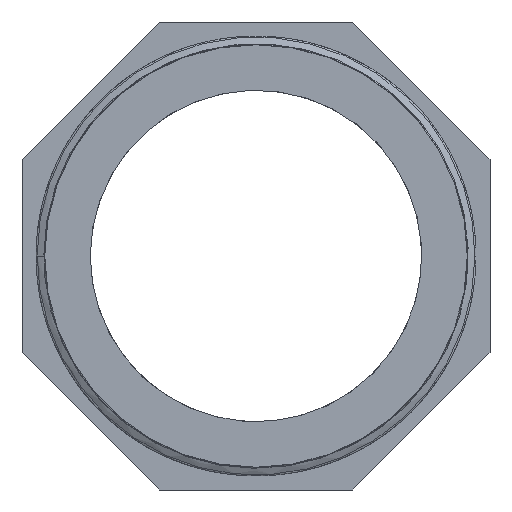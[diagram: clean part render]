
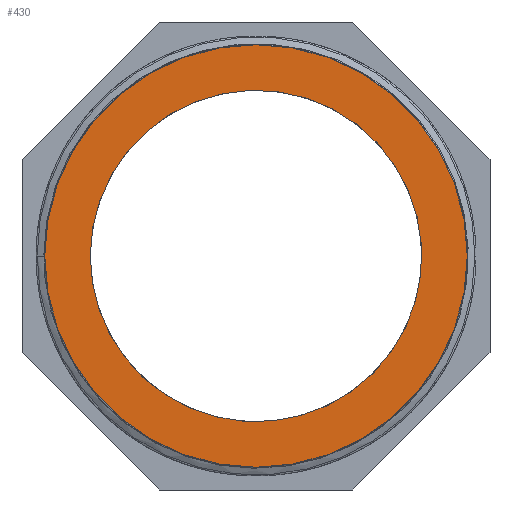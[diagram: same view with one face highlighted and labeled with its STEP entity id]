
A CAD part, front view. The second image highlights one B-rep face of the part: STEP entity #430.
In plain terms, the highlighted planar face has unit normal (0, -1, 0).
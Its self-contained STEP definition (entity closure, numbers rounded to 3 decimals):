
#17=FACE_BOUND('',#93,.T.);
#32=PLANE('',#455);
#37=CIRCLE('',#439,36.113);
#41=CIRCLE('',#454,28.328);
#65=FACE_OUTER_BOUND('',#92,.T.);
#92=EDGE_LOOP('',(#382));
#93=EDGE_LOOP('',(#383));
#186=VERTEX_POINT('',#3881);
#216=VERTEX_POINT('',#9950);
#234=EDGE_CURVE('',#186,#186,#37,.T.);
#276=EDGE_CURVE('',#216,#216,#41,.T.);
#382=ORIENTED_EDGE('',*,*,#234,.T.);
#383=ORIENTED_EDGE('',*,*,#276,.T.);
#430=ADVANCED_FACE('',(#65,#17),#32,.F.);
#439=AXIS2_PLACEMENT_3D('',#5788,#472,#473);
#454=AXIS2_PLACEMENT_3D('',#9951,#529,#530);
#455=AXIS2_PLACEMENT_3D('',#9952,#531,#532);
#472=DIRECTION('center_axis',(0.,-1.,0.));
#473=DIRECTION('ref_axis',(1.,0.,0.));
#529=DIRECTION('center_axis',(0.,1.,0.));
#530=DIRECTION('ref_axis',(1.,0.,0.));
#531=DIRECTION('center_axis',(0.,1.,0.));
#532=DIRECTION('ref_axis',(0.,0.,1.));
#3881=CARTESIAN_POINT('',(-36.113,0.,0.));
#5788=CARTESIAN_POINT('Origin',(0.,0.,0.));
#9950=CARTESIAN_POINT('',(-28.328,0.,0.));
#9951=CARTESIAN_POINT('Origin',(0.,0.,0.));
#9952=CARTESIAN_POINT('Origin',(0.,0.,0.));
